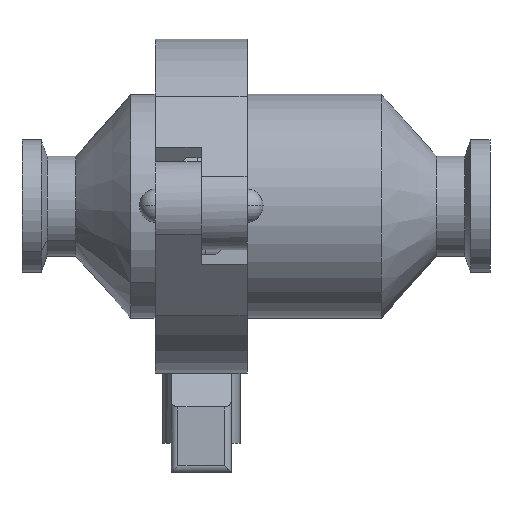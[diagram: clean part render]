
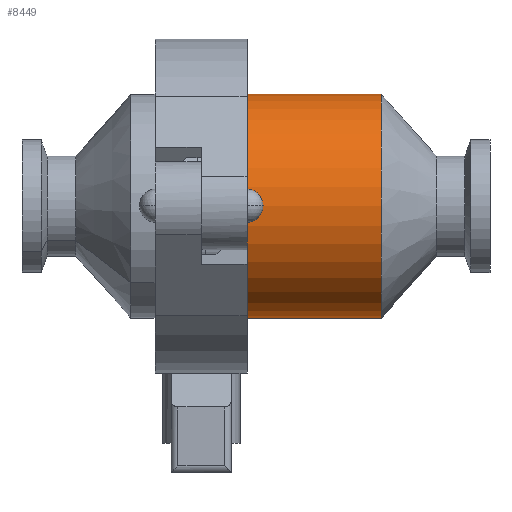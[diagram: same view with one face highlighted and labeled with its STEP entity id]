
A CAD part, left-side view. The second image highlights one B-rep face of the part: STEP entity #8449.
In plain terms, the highlighted cylindrical face has radius 21.273 mm (diameter 42.545 mm), a partial arc.
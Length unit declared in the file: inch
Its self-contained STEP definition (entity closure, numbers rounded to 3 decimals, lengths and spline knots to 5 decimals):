
#374 = CARTESIAN_POINT ( 'NONE',  ( 0.22284, 1.80847, 2.29434 ) ) ;
#421 = EDGE_CURVE ( 'NONE', #6674, #11546, #705, .T. ) ;
#705 = CIRCLE ( 'NONE', #5932, 0.8375 ) ;
#833 = DIRECTION ( 'NONE',  ( 0., -1., 0. ) ) ;
#1668 = LINE ( 'NONE', #6464, #3886 ) ;
#2241 = CARTESIAN_POINT ( 'NONE',  ( 0.22284, 1.80847, 1.45684 ) ) ;
#2644 = CARTESIAN_POINT ( 'NONE',  ( 0.22284, 0.49647, 1.45684 ) ) ;
#2655 = FACE_OUTER_BOUND ( 'NONE', #9958, .T. ) ;
#2802 = ORIENTED_EDGE ( 'NONE', *, *, #6883, .F. ) ;
#3087 = ORIENTED_EDGE ( 'NONE', *, *, #421, .T. ) ;
#3188 = DIRECTION ( 'NONE',  ( 0., 0., -1. ) ) ;
#3610 = DIRECTION ( 'NONE',  ( 0., 0., -1. ) ) ;
#3682 = ORIENTED_EDGE ( 'NONE', *, *, #5746, .F. ) ;
#3886 = VECTOR ( 'NONE', #833, 39.37008 ) ;
#4695 = CARTESIAN_POINT ( 'NONE',  ( 0.22284, 0.49647, 2.29434 ) ) ;
#4976 = EDGE_CURVE ( 'NONE', #11546, #8056, #1668, .T. ) ;
#5084 = CARTESIAN_POINT ( 'NONE',  ( 0.22284, 0.49647, 0.61934 ) ) ;
#5544 = AXIS2_PLACEMENT_3D ( 'NONE', #2241, #8865, #3188 ) ;
#5746 = EDGE_CURVE ( 'NONE', #6674, #11011, #11741, .T. ) ;
#5932 = AXIS2_PLACEMENT_3D ( 'NONE', #7764, #7641, #7554 ) ;
#6464 = CARTESIAN_POINT ( 'NONE',  ( 0.22284, 1.80847, 0.61934 ) ) ;
#6674 = VERTEX_POINT ( 'NONE', #10993 ) ;
#6883 = EDGE_CURVE ( 'NONE', #11011, #8056, #8907, .T. ) ;
#7426 = ORIENTED_EDGE ( 'NONE', *, *, #4976, .T. ) ;
#7554 = DIRECTION ( 'NONE',  ( 0., 0., -1. ) ) ;
#7641 = DIRECTION ( 'NONE',  ( 0., -1., 0. ) ) ;
#7764 = CARTESIAN_POINT ( 'NONE',  ( 0.22284, 1.59613, 1.45684 ) ) ;
#7924 = DIRECTION ( 'NONE',  ( 0., -1., 0. ) ) ;
#8056 = VERTEX_POINT ( 'NONE', #5084 ) ;
#8259 = AXIS2_PLACEMENT_3D ( 'NONE', #2644, #9269, #3610 ) ;
#8449 = ADVANCED_FACE ( 'NONE', ( #2655 ), #9941, .T. ) ;
#8865 = DIRECTION ( 'NONE',  ( 0., -1., 0. ) ) ;
#8907 = CIRCLE ( 'NONE', #8259, 0.8375 ) ;
#9269 = DIRECTION ( 'NONE',  ( 0., -1., 0. ) ) ;
#9941 = CYLINDRICAL_SURFACE ( 'NONE', #5544, 0.8375 ) ;
#9958 = EDGE_LOOP ( 'NONE', ( #3682, #3087, #7426, #2802 ) ) ;
#10260 = CARTESIAN_POINT ( 'NONE',  ( 0.22284, 1.59613, 0.61934 ) ) ;
#10993 = CARTESIAN_POINT ( 'NONE',  ( 0.22284, 1.59613, 2.29434 ) ) ;
#11011 = VERTEX_POINT ( 'NONE', #4695 ) ;
#11454 = VECTOR ( 'NONE', #7924, 39.37008 ) ;
#11546 = VERTEX_POINT ( 'NONE', #10260 ) ;
#11741 = LINE ( 'NONE', #374, #11454 ) ;
